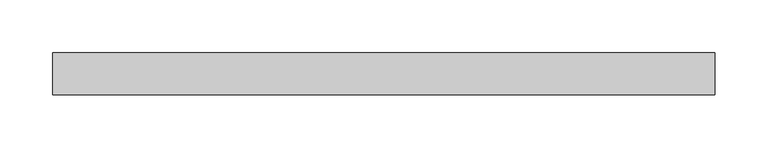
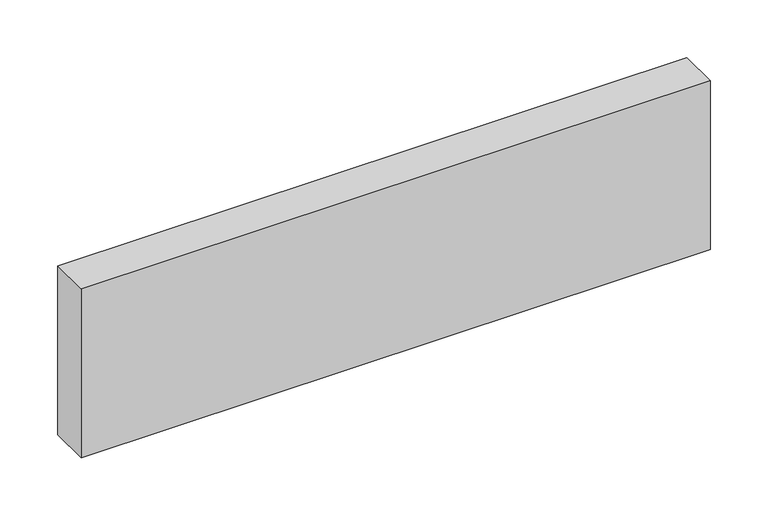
"""IFC4 building model written with IfcOpenShell, lengths in millimetres: plate geometry, Panneau système vide : Epaiss. 4cm."""

import ifcopenshell
import ifcopenshell.guid

model = None  # the IFC model being written
_history = None  # IfcOwnerHistory: only IFC2X3 demands one
_inside = {}  # id of a spatial element -> (the spatial element, [elements in it])
_under = {}  # id of a project, library or spatial element -> (it, [spatial elements below it])
_declared = {}  # id of a project -> (the project, [libraries it declares])
_typed = {}  # id of a type object -> (the type object, [elements of that type])
_made_of = {}  # id of a material, layer set ... -> (it, [elements and type objects made of it])


def new_model(schema):
    """Start an empty IFC model of exactly this schema.

    Asked for "IFC4X3", IfcOpenShell would pick the latest addendum, in which some entities
    have other attributes; the version numbers below select the first issue.
    IFC2X3 requires an IfcOwnerHistory on every rooted entity: one is made here for all.
    """
    global model, _history
    if schema == "IFC4X3":
        model = ifcopenshell.file(schema_version=(4, 3, 0, 0))
    else:
        model = ifcopenshell.file(schema=schema)
    _inside.clear()
    _under.clear()
    _declared.clear()
    _typed.clear()
    _made_of.clear()
    _history = None
    if model.schema == "IFC2X3":
        org = make("IfcOrganization", Name="unknown")
        user = make(
            "IfcPersonAndOrganization",
            ThePerson=make("IfcPerson", FamilyName="unknown"),
            TheOrganization=org,
        )
        app = make(
            "IfcApplication",
            ApplicationDeveloper=org,
            Version="unknown",
            ApplicationFullName="unknown",
            ApplicationIdentifier="unknown",
        )
        _history = make(
            "IfcOwnerHistory",
            OwningUser=user,
            OwningApplication=app,
            ChangeAction="ADDED",
            CreationDate=0,
        )
    return model


def make(cls, **values):
    """One entity of the class cls with the attributes given. An attribute that is None is left unset."""
    return model.create_entity(
        cls, **{name: value for name, value in values.items() if value is not None}
    )


def rooted(cls, **values):
    """An entity with a GlobalId (a new one), such as an element, a storey or a relation."""
    return make(cls, GlobalId=ifcopenshell.guid.new(), OwnerHistory=_history, **values)


def si_unit(unit_type, name, prefix=None):
    """IfcSIUnit, for example si_unit("LENGTHUNIT", "METRE", prefix="MILLI")."""
    return make("IfcSIUnit", UnitType=unit_type, Prefix=prefix, Name=name)


def assignment(units):
    """IfcUnitAssignment: the units of a project."""
    return None if units is None else make("IfcUnitAssignment", Units=units)


def point(xyz):
    """IfcCartesianPoint."""
    return None if xyz is None else make("IfcCartesianPoint", Coordinates=xyz)


def direction(xyz):
    """IfcDirection."""
    return None if xyz is None else make("IfcDirection", DirectionRatios=xyz)


def frame(location, z_axis=None, x_axis=None):
    """IfcAxis2Placement3D, a coordinate frame: its origin and axes. An axis left out is left unset."""
    return make(
        "IfcAxis2Placement3D",
        Location=point(location),
        Axis=direction(z_axis),
        RefDirection=direction(x_axis),
    )


def origin():
    """The frame at (0, 0, 0) with its axes left unset."""
    return frame((0.0, 0.0, 0.0))


def origin_with_axes():
    """The frame at (0, 0, 0) with the z axis (0, 0, 1) and the x axis (1, 0, 0) written out."""
    return frame((0.0, 0.0, 0.0), z_axis=(0.0, 0.0, 1.0), x_axis=(1.0, 0.0, 0.0))


def place(relative_to, where):
    """IfcLocalPlacement: puts the frame where relative to a parent placement (None: the world)."""
    return make(
        "IfcLocalPlacement", PlacementRelTo=relative_to, RelativePlacement=where
    )


def context(
    kind, dimensions, precision=None, world=None, true_north=None, identifier=None
):
    """IfcGeometricRepresentationContext, for example the 3D "Model" context."""
    return make(
        "IfcGeometricRepresentationContext",
        ContextIdentifier=identifier,
        ContextType=kind,
        CoordinateSpaceDimension=dimensions,
        Precision=precision,
        WorldCoordinateSystem=world,
        TrueNorth=true_north,
    )


def project(units=None, contexts=None):
    """IfcProject with its units and contexts."""
    return rooted(
        "IfcProject",
        Name="project",
        RepresentationContexts=contexts,
        UnitsInContext=assignment(units),
    )


def spatial(cls, under=None, at=None, **own):
    """A site, building, storey or space (cls), placed at a placement, below another one or the project."""
    s = rooted(cls, ObjectPlacement=at, **own)
    if under is not None:
        _under.setdefault(under.id(), (under, []))[1].append(s)
    return s


def polyline(points):
    """IfcPolyline through the points."""
    return make("IfcPolyline", Points=[point(p) for p in points])


def outline(outer, holes=None, kind="AREA"):
    """IfcArbitraryClosedProfileDef: a profile drawn as a closed curve; with holes, ...WithVoids."""
    if holes is None:
        return make("IfcArbitraryClosedProfileDef", ProfileType=kind, OuterCurve=outer)
    return make(
        "IfcArbitraryProfileDefWithVoids",
        ProfileType=kind,
        OuterCurve=outer,
        InnerCurves=holes,
    )


def extrude(swept, where, along, depth):
    """IfcExtrudedAreaSolid: the profile swept, set in the frame where, extruded along a direction by depth."""
    return make(
        "IfcExtrudedAreaSolid",
        SweptArea=swept,
        Position=where,
        ExtrudedDirection=direction(along),
        Depth=depth,
    )


def shape(context_of_items, identifier, shape_type, items):
    """IfcShapeRepresentation: the items that make up one representation, for example the "Body"."""
    return make(
        "IfcShapeRepresentation",
        ContextOfItems=context_of_items,
        RepresentationIdentifier=identifier,
        RepresentationType=shape_type,
        Items=items,
    )


def source(mapping_origin, context_of_items, identifier, shape_type, items):
    """IfcRepresentationMap: a shape defined once, which mapped items show again and again."""
    return make(
        "IfcRepresentationMap",
        MappingOrigin=mapping_origin,
        MappedRepresentation=shape(context_of_items, identifier, shape_type, items),
    )


def transform(
    local_origin,
    x_axis=None,
    y_axis=None,
    z_axis=None,
    scale=None,
    scale2=None,
    scale3=None,
    uniform=True,
):
    """IfcCartesianTransformationOperator3D, or its non-uniform kind. x_axis, y_axis, z_axis: its Axis1, 2, 3."""
    if uniform:
        return make(
            "IfcCartesianTransformationOperator3D",
            Axis1=direction(x_axis),
            Axis2=direction(y_axis),
            LocalOrigin=point(local_origin),
            Scale=scale,
            Axis3=direction(z_axis),
        )
    return make(
        "IfcCartesianTransformationOperator3DnonUniform",
        Axis1=direction(x_axis),
        Axis2=direction(y_axis),
        LocalOrigin=point(local_origin),
        Scale=scale,
        Axis3=direction(z_axis),
        Scale2=scale2,
        Scale3=scale3,
    )


def mapped(mapping_source, mapping_target):
    """IfcMappedItem: shows the shape of a source again, moved by a transform."""
    return make(
        "IfcMappedItem", MappingSource=mapping_source, MappingTarget=mapping_target
    )


def made_of(thing, what):
    """Note that an element or type object is made of a material, layer set ...; save() writes the relation."""
    if what is not None:
        _made_of.setdefault(what.id(), (what, []))[1].append(thing)
    return thing


def element(
    cls,
    number,
    at=None,
    inside=None,
    cuts=None,
    type_object=None,
    material=None,
    context=None,
    identifier="Body",
    shape_type=None,
    held_by="IfcProductDefinitionShape",
    body=None,
    shapes=None,
    **own,
):
    """One element of the class cls, such as IfcWall. Its Tag is "e" and its number.

    at: its placement. inside: the storey or other place that contains it. cuts: it is an
    opening in that element (IfcRelVoidsElement). A single representation is given by context,
    identifier, shape_type and body (its items); several are given by shapes. held_by: the class
    of the entity that holds the representations. save() writes the other relations.
    """
    e = rooted(cls, Tag="e%d" % number, ObjectPlacement=at, **own)
    if body is not None:
        shapes = [shape(context, identifier, shape_type, body)]
    if shapes is not None:
        e.Representation = make(held_by, Representations=shapes)
    if inside is not None:
        _inside.setdefault(inside.id(), (inside, []))[1].append(e)
    if cuts is not None:
        rooted(
            "IfcRelVoidsElement", RelatingBuildingElement=cuts, RelatedOpeningElement=e
        )
    if type_object is not None:
        _typed.setdefault(type_object.id(), (type_object, []))[1].append(e)
    return made_of(e, material)


def aggregate(whole, parts):
    """IfcRelAggregates: a whole, such as a stair, and the parts it consists of."""
    return rooted("IfcRelAggregates", RelatingObject=whole, RelatedObjects=parts)


def save(model, path):
    """Write the relations noted so far, then the file.

    IfcRelAggregates (storeys below a building ...), IfcRelContainedInSpatialStructure (elements
    in a storey), IfcRelDefinesByType, IfcRelAssociatesMaterial and IfcRelDeclares: one each for
    every whole, place, type object, material and project.
    """
    for whole, parts in _under.values():
        aggregate(whole, parts)
    for where, things in _inside.values():
        rooted(
            "IfcRelContainedInSpatialStructure",
            RelatedElements=things,
            RelatingStructure=where,
        )
    for kind, things in _typed.values():
        rooted("IfcRelDefinesByType", RelatedObjects=things, RelatingType=kind)
    for what, things in _made_of.values():
        rooted("IfcRelAssociatesMaterial", RelatedObjects=things, RelatingMaterial=what)
    for by, libraries in _declared.values():
        rooted("IfcRelDeclares", RelatingContext=by, RelatedDefinitions=libraries)
    model.write(path)


def plate_72baa28e(model_context):
    return source(origin(), model_context, "Body", "SweptSolid", [
        extrude(outline(polyline([(313.8255909, -20.0), (-313.8255909, -20.0), (-313.8255909, 20.0), (313.8255909, 20.0), (313.8255909, -20.0)])), origin_with_axes(), (0.0, 0.0, 1.0), 178.3333333),
    ])


if __name__ == "__main__":
    model = new_model("IFC4")
    model_context = context("Model", 3, world=origin())
    ifc_project = project(units=[si_unit("LENGTHUNIT", "METRE", prefix="MILLI")], contexts=[model_context])
    site = spatial("IfcSite", under=ifc_project)
    building = spatial("IfcBuilding", under=site)
    placement = place(None, origin())
    plate_shape = plate_72baa28e(model_context)
    element("IfcPlate", 1, ObjectType="Panneau système vide : Epaiss. 4cm", at=placement, inside=building, context=model_context, shape_type="MappedRepresentation", body=[
        mapped(plate_shape, transform((0.0, 0.0, 0.0), x_axis=(1.0, 0.0, 0.0), y_axis=(0.0, 1.0, 0.0), z_axis=(0.0, 0.0, 1.0))),
    ])
    save(model, "model.ifc")
